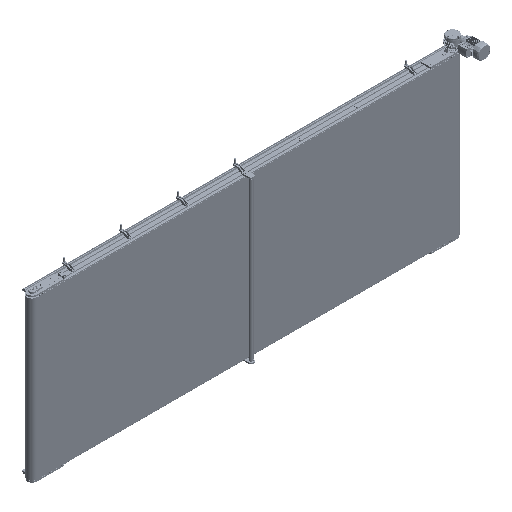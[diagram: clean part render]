
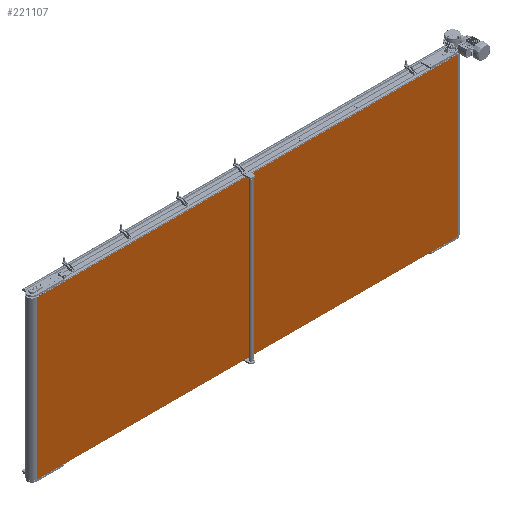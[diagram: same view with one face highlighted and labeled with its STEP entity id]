
A CAD part, isometric view. The second image highlights one B-rep face of the part: STEP entity #221107.
In plain terms, the highlighted planar face has unit normal (0, -1, 0).
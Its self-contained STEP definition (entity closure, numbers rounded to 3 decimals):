
#2999 = DIRECTION ( 'NONE',  ( 0., 0., -1. ) ) ;
#12943 = EDGE_CURVE ( 'NONE', #183902, #37712, #31863, .T. ) ;
#19846 = LINE ( 'NONE', #41415, #104604 ) ;
#30812 = LINE ( 'NONE', #102918, #90978 ) ;
#31863 = LINE ( 'NONE', #48661, #184821 ) ;
#37712 = VERTEX_POINT ( 'NONE', #155154 ) ;
#39438 = EDGE_LOOP ( 'NONE', ( #181073, #69770, #150565, #53585 ) ) ;
#41415 = CARTESIAN_POINT ( 'NONE',  ( -2000., -49.5, 750. ) ) ;
#45956 = CARTESIAN_POINT ( 'NONE',  ( -2000., -49.5, 750. ) ) ;
#48661 = CARTESIAN_POINT ( 'NONE',  ( -2000., -49.5, 750. ) ) ;
#52104 = CARTESIAN_POINT ( 'NONE',  ( -2000., -49.5, -750. ) ) ;
#53585 = ORIENTED_EDGE ( 'NONE', *, *, #127003, .T. ) ;
#56429 = VERTEX_POINT ( 'NONE', #52104 ) ;
#62548 = EDGE_CURVE ( 'NONE', #37712, #157834, #65477, .T. ) ;
#65477 = LINE ( 'NONE', #123111, #224323 ) ;
#69770 = ORIENTED_EDGE ( 'NONE', *, *, #62548, .F. ) ;
#77036 = EDGE_CURVE ( 'NONE', #56429, #157834, #30812, .T. ) ;
#88824 = CARTESIAN_POINT ( 'NONE',  ( -2000., -49.5, 750. ) ) ;
#90978 = VECTOR ( 'NONE', #174918, 1000. ) ;
#101227 = DIRECTION ( 'NONE',  ( 0., 1., 0. ) ) ;
#102918 = CARTESIAN_POINT ( 'NONE',  ( -2000., -49.5, -750. ) ) ;
#104604 = VECTOR ( 'NONE', #2999, 1000. ) ;
#105123 = DIRECTION ( 'NONE',  ( 1., 0., 0. ) ) ;
#116834 = FACE_OUTER_BOUND ( 'NONE', #39438, .T. ) ;
#123111 = CARTESIAN_POINT ( 'NONE',  ( 2000., -49.5, 750. ) ) ;
#127003 = EDGE_CURVE ( 'NONE', #183902, #56429, #19846, .T. ) ;
#129254 = CARTESIAN_POINT ( 'NONE',  ( 2000., -49.5, -750. ) ) ;
#141105 = DIRECTION ( 'NONE',  ( 0., 0., -1. ) ) ;
#150565 = ORIENTED_EDGE ( 'NONE', *, *, #12943, .F. ) ;
#155154 = CARTESIAN_POINT ( 'NONE',  ( 2000., -49.5, 750. ) ) ;
#157834 = VERTEX_POINT ( 'NONE', #129254 ) ;
#174431 = DIRECTION ( 'NONE',  ( 0., 0., 1. ) ) ;
#174918 = DIRECTION ( 'NONE',  ( 1., 0., 0. ) ) ;
#181073 = ORIENTED_EDGE ( 'NONE', *, *, #77036, .T. ) ;
#183902 = VERTEX_POINT ( 'NONE', #88824 ) ;
#184821 = VECTOR ( 'NONE', #105123, 1000. ) ;
#194223 = AXIS2_PLACEMENT_3D ( 'NONE', #45956, #101227, #174431 ) ;
#221107 = ADVANCED_FACE ( 'NONE', ( #116834 ), #224956, .F. ) ;
#224323 = VECTOR ( 'NONE', #141105, 1000. ) ;
#224956 = PLANE ( 'NONE',  #194223 ) ;
